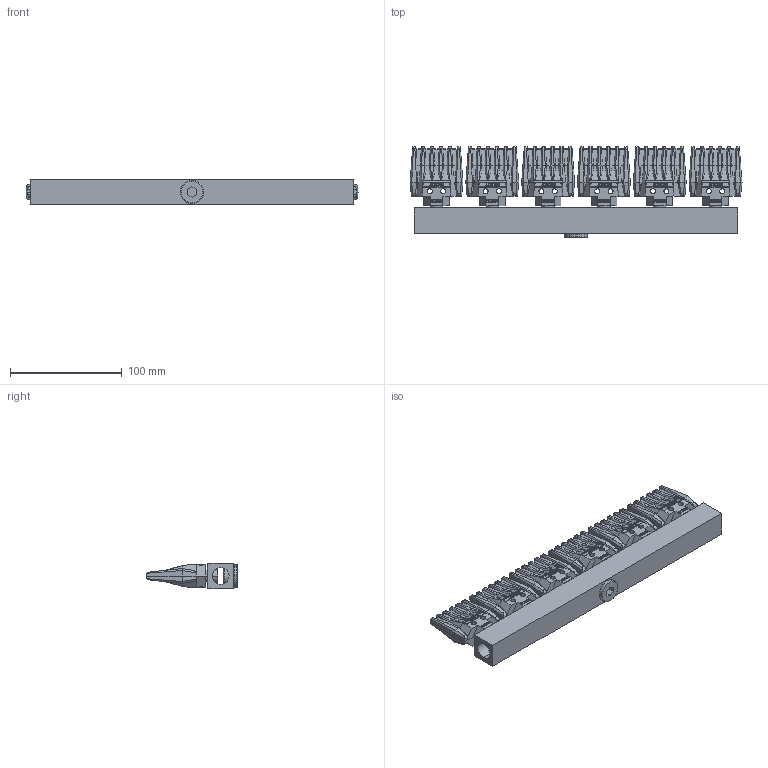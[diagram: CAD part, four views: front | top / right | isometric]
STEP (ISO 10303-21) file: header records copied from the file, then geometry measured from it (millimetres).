
FILE_DESCRIPTION (( 'STEP AP214' ), '1' );
FILE_NAME ('70016-3.STEP', '2023-02-02T12:17:09', ( '' ), ( '' ), 'SwSTEP 2.0', 'SolidWorks 2021', '' );
FILE_SCHEMA (( 'AUTOMOTIVE_DESIGN' ));
Length unit declared in the file: millimetre
Products named in the file (4): 9002W-Z_dummy_NPT; Profil 306; Plugg 300; 70016-3
Assembly tree (8 placements, depth 2):
  70016-3
    Profil 306
    Plugg 300
    9002W-Z_dummy_NPT  x6
Bounding box: 297.46 x 81.41 x 23 mm (x, y, z)
Volume: 256417.1 mm3; surface area: 89462.8 mm2
Topology: 8 solids, 8 shells, 3540 faces, 9588 edges, 6294 vertices
Faces by surface type: plane 2614, bspline 576, cylinder 188, cone 158, torus 4
Entity records: 25527 total; most frequent: CARTESIAN_POINT 10595, ORIENTED_EDGE 3366, DIRECTION 2423, EDGE_CURVE 1683, LINE 1175, VECTOR 1175, VERTEX_POINT 1104, EDGE_LOOP 685
